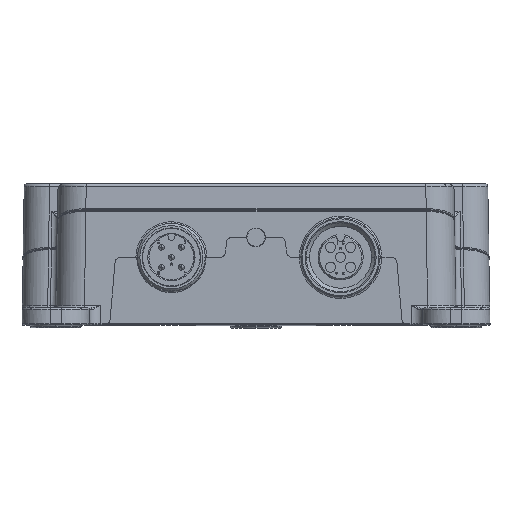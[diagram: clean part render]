
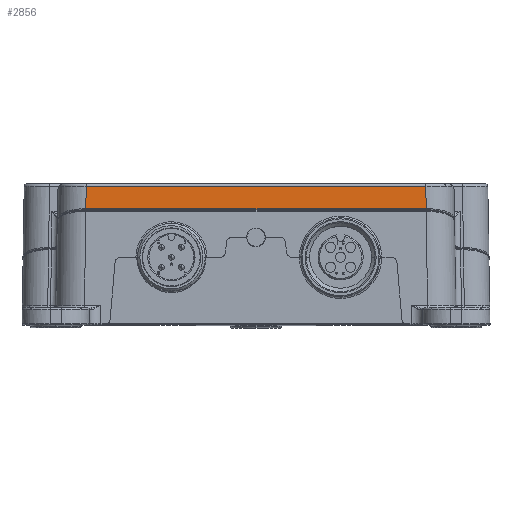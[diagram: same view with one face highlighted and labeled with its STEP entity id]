
A CAD part, top view. The second image highlights one B-rep face of the part: STEP entity #2856.
In plain terms, the highlighted planar face has unit normal (0, 0.018, 1).
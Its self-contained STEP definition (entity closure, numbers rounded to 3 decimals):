
#156 = CARTESIAN_POINT ( 'NONE',  ( 30.181, 21.124, 24.028 ) ) ;
#229 = EDGE_CURVE ( 'NONE', #7544, #43279, #26099, .T. ) ;
#384 = DIRECTION ( 'NONE',  ( 1., 0., 0. ) ) ;
#569 = CARTESIAN_POINT ( 'NONE',  ( -30.182, 20.894, 24.032 ) ) ;
#847 = FACE_OUTER_BOUND ( 'NONE', #41778, .T. ) ;
#1288 = PLANE ( 'NONE',  #42304 ) ;
#2828 = CARTESIAN_POINT ( 'NONE',  ( 0., 25.082, 23.959 ) ) ;
#2856 = ADVANCED_FACE ( 'NONE', ( #847 ), #1288, .T. ) ;
#7299 = DIRECTION ( 'NONE',  ( -0.017, -1., 0.017 ) ) ;
#7323 = LINE ( 'NONE', #156, #8371 ) ;
#7544 = VERTEX_POINT ( 'NONE', #30981 ) ;
#8371 = VECTOR ( 'NONE', #384, 1000. ) ;
#9354 = DIRECTION ( 'NONE',  ( -0.017, 1., -0.017 ) ) ;
#10934 = CARTESIAN_POINT ( 'NONE',  ( -30.109, 25.082, 23.959 ) ) ;
#12665 = VECTOR ( 'NONE', #7299, 1000. ) ;
#13783 = ORIENTED_EDGE ( 'NONE', *, *, #14252, .T. ) ;
#14252 = EDGE_CURVE ( 'NONE', #43279, #21205, #16674, .T. ) ;
#16674 = LINE ( 'NONE', #2828, #24092 ) ;
#17389 = VECTOR ( 'NONE', #9354, 1000. ) ;
#17591 = DIRECTION ( 'NONE',  ( 0., 1., -0.017 ) ) ;
#21205 = VERTEX_POINT ( 'NONE', #10934 ) ;
#24030 = CARTESIAN_POINT ( 'NONE',  ( 30.109, 25.082, 23.959 ) ) ;
#24092 = VECTOR ( 'NONE', #43534, 1000. ) ;
#26099 = LINE ( 'NONE', #35924, #17389 ) ;
#29052 = ORIENTED_EDGE ( 'NONE', *, *, #229, .T. ) ;
#30981 = CARTESIAN_POINT ( 'NONE',  ( 30.178, 21.124, 24.028 ) ) ;
#31230 = DIRECTION ( 'NONE',  ( 0., 0.017, 1. ) ) ;
#33848 = VERTEX_POINT ( 'NONE', #38179 ) ;
#34592 = CARTESIAN_POINT ( 'NONE',  ( 0., 25.573, 23.95 ) ) ;
#35212 = ORIENTED_EDGE ( 'NONE', *, *, #42644, .T. ) ;
#35924 = CARTESIAN_POINT ( 'NONE',  ( 30.102, 25.486, 23.952 ) ) ;
#37803 = EDGE_CURVE ( 'NONE', #33848, #7544, #7323, .T. ) ;
#37880 = LINE ( 'NONE', #569, #12665 ) ;
#38179 = CARTESIAN_POINT ( 'NONE',  ( -30.178, 21.124, 24.028 ) ) ;
#41570 = ORIENTED_EDGE ( 'NONE', *, *, #37803, .T. ) ;
#41778 = EDGE_LOOP ( 'NONE', ( #29052, #13783, #35212, #41570 ) ) ;
#42304 = AXIS2_PLACEMENT_3D ( 'NONE', #34592, #31230, #17591 ) ;
#42644 = EDGE_CURVE ( 'NONE', #21205, #33848, #37880, .T. ) ;
#43279 = VERTEX_POINT ( 'NONE', #24030 ) ;
#43534 = DIRECTION ( 'NONE',  ( -1., 0., 0. ) ) ;
